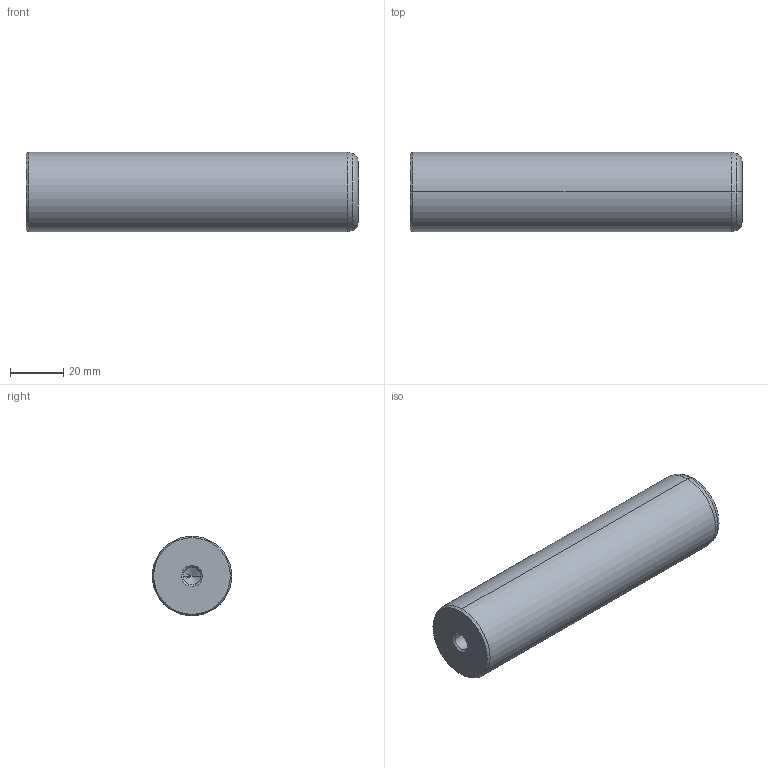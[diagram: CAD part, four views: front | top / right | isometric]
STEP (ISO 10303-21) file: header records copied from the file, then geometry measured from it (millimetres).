
FILE_DESCRIPTION(('CATIA V5 STEP Exchange'),'2;1');
FILE_NAME('C:\Users\Utente\Desktop\IO LAVORO\3D X SITO CF\X SITO\720\720-30x125.stp','2021-01-01T12:34:56+00:00',('none'),('none'),'CATIA Version 5 Release 20 GA (IN-10)','CATIA V5 STEP AP203','none');
FILE_SCHEMA(('CONFIG_CONTROL_DESIGN'));
Length unit declared in the file: millimetre
Products named in the file (1): 720-30x125
Bounding box: 125 x 30 x 30 mm (x, y, z)
Volume: 86326.5 mm3; surface area: 13991.7 mm2
Topology: 1 solids, 1 shells, 22 faces, 62 edges, 40 vertices
Faces by surface type: cone 12, cylinder 6, plane 2, torus 2
Entity records: 806 total; most frequent: CARTESIAN_POINT 229, ORIENTED_EDGE 116, DIRECTION 93, EDGE_CURVE 58, AXIS2_PLACEMENT_3D 54, VERTEX_POINT 40, CIRCLE 31, EDGE_LOOP 24
